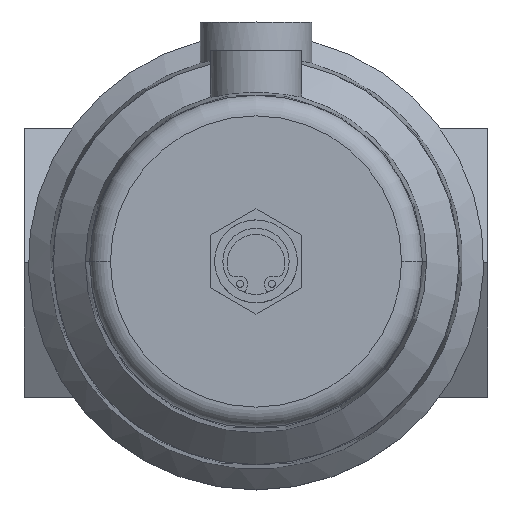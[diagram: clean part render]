
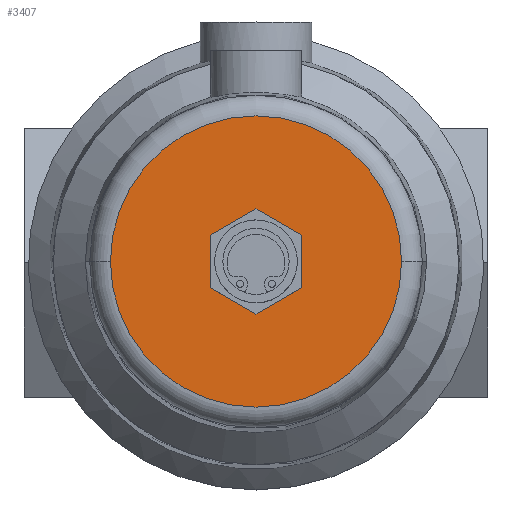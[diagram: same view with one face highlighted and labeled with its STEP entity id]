
A CAD part, top view. The second image highlights one B-rep face of the part: STEP entity #3407.
In plain terms, the highlighted planar face has unit normal (0, 0, 1).
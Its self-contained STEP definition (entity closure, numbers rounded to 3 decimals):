
#1220=CARTESIAN_POINT('',(0.,0.,203.));
#1221=DIRECTION('',(0.,0.,1.));
#1222=DIRECTION('',(-1.,0.,0.));
#1223=AXIS2_PLACEMENT_3D('',#1220,#1221,#1222);
#1225=CARTESIAN_POINT('',(0.,0.,203.));
#1226=DIRECTION('',(0.,0.,1.));
#1227=DIRECTION('',(1.,0.,0.));
#1228=AXIS2_PLACEMENT_3D('',#1225,#1226,#1227);
#1230=DIRECTION('',(0.866,0.5,0.));
#1231=VECTOR('',#1230,12.702);
#1232=CARTESIAN_POINT('',(0.,-12.702,203.));
#1233=LINE('',#1232,#1231);
#1234=DIRECTION('',(0.,1.,0.));
#1235=VECTOR('',#1234,12.702);
#1236=CARTESIAN_POINT('',(11.,-6.351,203.));
#1237=LINE('',#1236,#1235);
#1238=DIRECTION('',(-0.866,0.5,0.));
#1239=VECTOR('',#1238,12.702);
#1240=CARTESIAN_POINT('',(11.,6.351,203.));
#1241=LINE('',#1240,#1239);
#1242=DIRECTION('',(-0.866,-0.5,0.));
#1243=VECTOR('',#1242,12.702);
#1244=CARTESIAN_POINT('',(0.,12.702,203.));
#1245=LINE('',#1244,#1243);
#1246=DIRECTION('',(0.,-1.,0.));
#1247=VECTOR('',#1246,12.702);
#1248=CARTESIAN_POINT('',(-11.,6.351,203.));
#1249=LINE('',#1248,#1247);
#1250=DIRECTION('',(0.866,-0.5,0.));
#1251=VECTOR('',#1250,12.702);
#1252=CARTESIAN_POINT('',(-11.,-6.351,203.));
#1253=LINE('',#1252,#1251);
#1667=CARTESIAN_POINT('',(-35.175,0.,203.));
#1668=CARTESIAN_POINT('',(35.175,0.,203.));
#1669=VERTEX_POINT('',#1667);
#1670=VERTEX_POINT('',#1668);
#1719=CARTESIAN_POINT('',(0.,-12.702,203.));
#1720=CARTESIAN_POINT('',(11.,-6.351,203.));
#1721=VERTEX_POINT('',#1719);
#1722=VERTEX_POINT('',#1720);
#1723=CARTESIAN_POINT('',(11.,6.351,203.));
#1724=VERTEX_POINT('',#1723);
#1725=CARTESIAN_POINT('',(0.,12.702,203.));
#1726=VERTEX_POINT('',#1725);
#1727=CARTESIAN_POINT('',(-11.,6.351,203.));
#1728=VERTEX_POINT('',#1727);
#1729=CARTESIAN_POINT('',(-11.,-6.351,203.));
#1730=VERTEX_POINT('',#1729);
#3383=CARTESIAN_POINT('',(0.,0.,203.));
#3384=DIRECTION('',(0.,0.,-1.));
#3385=DIRECTION('',(1.,0.,0.));
#3386=AXIS2_PLACEMENT_3D('',#3383,#3384,#3385);
#3387=PLANE('',#3386);
#3388=ORIENTED_EDGE('',*,*,#3373,.F.);
#3390=ORIENTED_EDGE('',*,*,#3389,.F.);
#3391=EDGE_LOOP('',(#3388,#3390));
#3392=FACE_OUTER_BOUND('',#3391,.F.);
#3394=ORIENTED_EDGE('',*,*,#3393,.T.);
#3396=ORIENTED_EDGE('',*,*,#3395,.T.);
#3398=ORIENTED_EDGE('',*,*,#3397,.T.);
#3400=ORIENTED_EDGE('',*,*,#3399,.T.);
#3402=ORIENTED_EDGE('',*,*,#3401,.T.);
#3404=ORIENTED_EDGE('',*,*,#3403,.T.);
#3405=EDGE_LOOP('',(#3394,#3396,#3398,#3400,#3402,#3404));
#3406=FACE_BOUND('',#3405,.F.);
#3407=ADVANCED_FACE('',(#3392,#3406),#3387,.F.);
#1224=CIRCLE('',#1223,35.175);
#1229=CIRCLE('',#1228,35.175);
#3373=EDGE_CURVE('',#1669,#1670,#1224,.T.);
#3389=EDGE_CURVE('',#1670,#1669,#1229,.T.);
#3393=EDGE_CURVE('',#1721,#1722,#1233,.T.);
#3395=EDGE_CURVE('',#1722,#1724,#1237,.T.);
#3397=EDGE_CURVE('',#1724,#1726,#1241,.T.);
#3399=EDGE_CURVE('',#1726,#1728,#1245,.T.);
#3401=EDGE_CURVE('',#1728,#1730,#1249,.T.);
#3403=EDGE_CURVE('',#1730,#1721,#1253,.T.);
